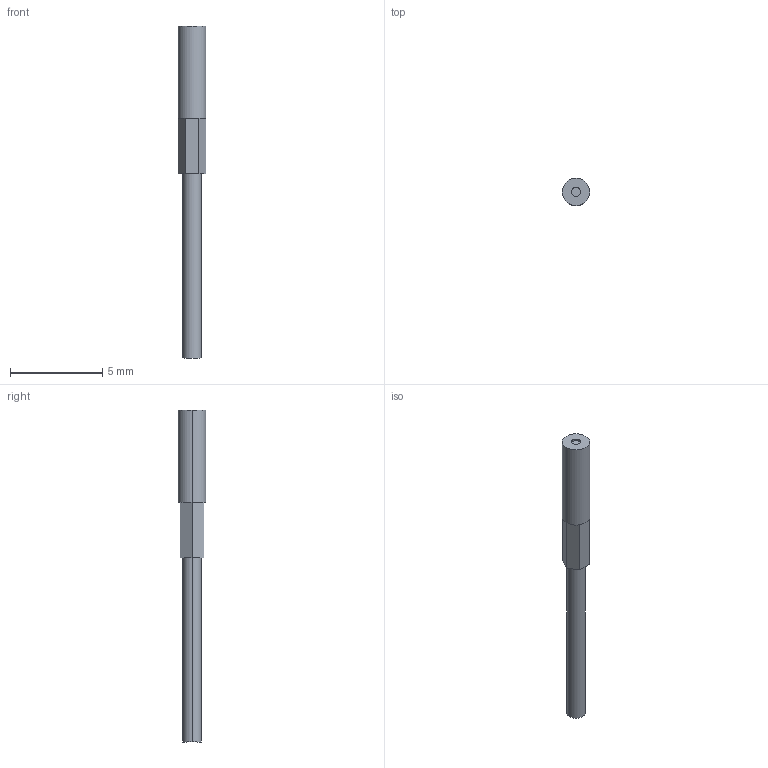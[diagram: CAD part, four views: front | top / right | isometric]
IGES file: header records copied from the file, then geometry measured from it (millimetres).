
Start section: SolidWorks IGES FILE using analytic representation for surfaces
Global section: file name: \\intra-srv04\開発データ\CAD_Data\CAD委員会\3D電子ｶﾀﾛｸﾞ\製品カタログ（新）\0_IGES\FT-WS4.IGS,41HSolidWorks 2004; native system: by SolidWorks Corporation; preprocessor: Version 5.3; author: mf1158; date: 050908.112643; units: millimetre
Bounding box: 1.5 x 1.5 x 18 mm (x, y, z)
Volume: 21.1 mm3; surface area: 72.2 mm2
Topology: 1 solids, 1 shells, 22 faces, 40 edges, 22 vertices
Faces by surface type: plane 16, revolution 6
